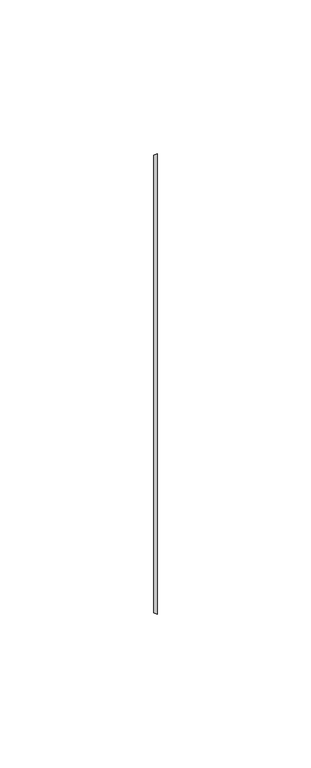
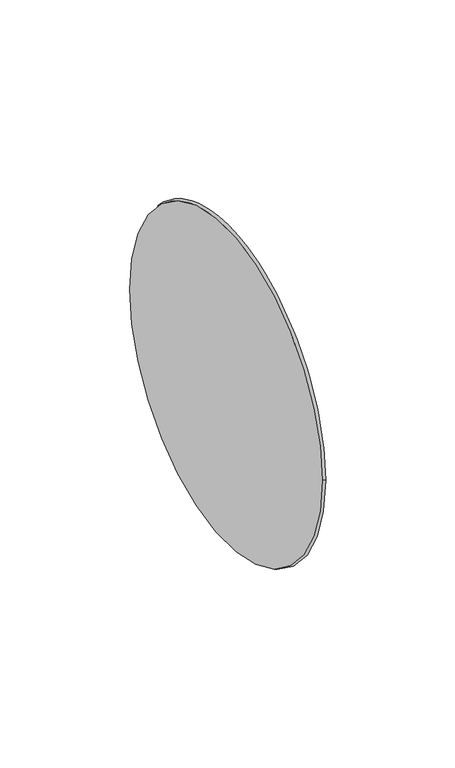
"""IFC4 building model written with IfcOpenShell, lengths in millimetres: duct fitting geometry, M_Transição redonda - Ângulo : 45 Graus."""

from ifc_helpers import new_model, si_unit, frame, origin, place, context, project, spatial, polyline, circle_curve, source, transform, mapped, element, save
from ifc_brep_helpers import plane_surface, revolved_surface, advanced_brep


def duct_fitting_ed959077(model_context):
    return source(origin(), model_context, "Body", "AdvancedBrep", [
        advanced_brep(
        [(1.2071068, -75.0, 0.0), (1.2071068, 75.0, 0.0), (0.0, -74.5, 0.0), (0.0, 74.5, 0.0)],
        [
            (0, 1, circle_curve(frame((1.2071068, 0.0, 0.0), z_axis=(1.0, 0.0, 6.5038046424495e-12), x_axis=(0.0, -1.0, 0.0)), 75.0)),
            (1, 0, circle_curve(frame((1.2071068, 0.0, 0.0), z_axis=(1.0, 0.0, 6.5038046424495e-12), x_axis=(0.0, 1.0, 0.0)), 75.0)),
            (2, 3, circle_curve(frame((0.0, 0.0, 0.0), z_axis=(-1.0, 0.0, -6.5038046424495e-12), x_axis=(0.0, 1.0, 0.0)), 74.5)),
            (3, 2, circle_curve(frame((0.0, 0.0, 0.0), z_axis=(-1.0, 0.0, -6.5038046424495e-12), x_axis=(0.0, -1.0, 0.0)), 74.5)),
            (3, 1),
            (0, 2),
        ],
        [
            plane_surface(frame((1.2071068, 0.0, 0.0), z_axis=(1.0, 0.0, 0.0), x_axis=(0.0, 0.0, -1.0))),
            plane_surface(frame((0.0, 0.0, 0.0), z_axis=(-1.0, 0.0, 0.0), x_axis=(0.0, 0.0, -1.0))),
            revolved_surface(polyline([(0.0, 74.49999999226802, 0.0), (1.2071067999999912, 75.0, 0.0)]), (-179.8589104, 0.0, 0.0), (1.0, 0.0, 6.5038046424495e-12)),
            revolved_surface(polyline([(0.0, -74.49999999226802, 0.0), (1.2071067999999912, -75.0, 0.0)]), (-179.8589104, 0.0, 0.0), (1.0, 0.0, 6.5038046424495e-12)),
        ],
        [
            (0, [[1, 2]]),
            (1, [[3, 4]]),
            (2, [[-4, 5, -1, 6]]),
            (3, [[-3, -6, -2, -5]]),
        ],
    ),
    ])


if __name__ == "__main__":
    model = new_model("IFC4")
    model_context = context("Model", 3, world=origin())
    ifc_project = project(units=[si_unit("LENGTHUNIT", "METRE", prefix="MILLI")], contexts=[model_context])
    site = spatial("IfcSite", under=ifc_project)
    building = spatial("IfcBuilding", under=site)
    placement = place(None, origin())
    duct_fitting_shape = duct_fitting_ed959077(model_context)
    element("IfcDuctFitting", 1, ObjectType="M_Transição redonda - Ângulo : 45 Graus", at=placement, inside=building, context=model_context, shape_type="MappedRepresentation", body=[
        mapped(duct_fitting_shape, transform((0.0, 0.0, 0.0), x_axis=(1.0, 0.0, 0.0), y_axis=(0.0, 1.0, 0.0), z_axis=(0.0, 0.0, 1.0))),
    ])
    save(model, "model.ifc")
